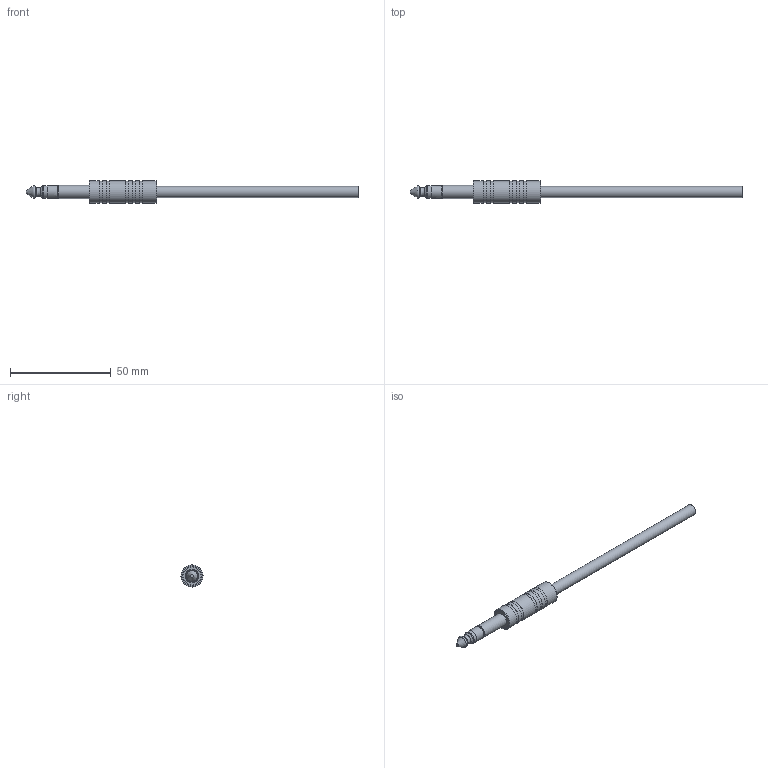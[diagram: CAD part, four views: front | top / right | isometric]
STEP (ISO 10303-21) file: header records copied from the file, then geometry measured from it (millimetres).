
FILE_DESCRIPTION(/* description */ (''),/* implementation_level */ '2;1');
FILE_NAME(/* name */ 'Jack 6.3.stp',/* time_stamp */ '2026-07-13T09:11:17+03:00',/* author */ ('USER'),/* organization */ (''),/* preprocessor_version */ 'ST-DEVELOPER v20',/* originating_system */ 'Autodesk Inventor 2025',/* authorisation */ '');
FILE_SCHEMA (('AUTOMOTIVE_DESIGN { 1 0 10303 214 3 1 1 }'));
Length unit declared in the file: millimetre
Products named in the file (1): Jack 6.3
Bounding box: 164.8 x 11 x 11 mm (x, y, z)
Volume: 6382 mm3; surface area: 3737.2 mm2
Topology: 1 solids, 1 shells, 44 faces, 74 edges, 48 vertices
Faces by surface type: plane 18, cylinder 18, torus 5, cone 3
Full cylindrical faces by diameter (mm): 5.5 x1, 6.3 x1, 6.4 x1, 6.41 x1, 6.5 x1, 9 x1, 9.5 x1, 10.5 x5, 11 x6
Entity records: 1183 total; most frequent: DIRECTION 215, CARTESIAN_POINT 201, ORIENTED_EDGE 148, AXIS2_PLACEMENT_3D 97, EDGE_CURVE 74, EDGE_LOOP 60, CIRCLE 52, VERTEX_POINT 48
